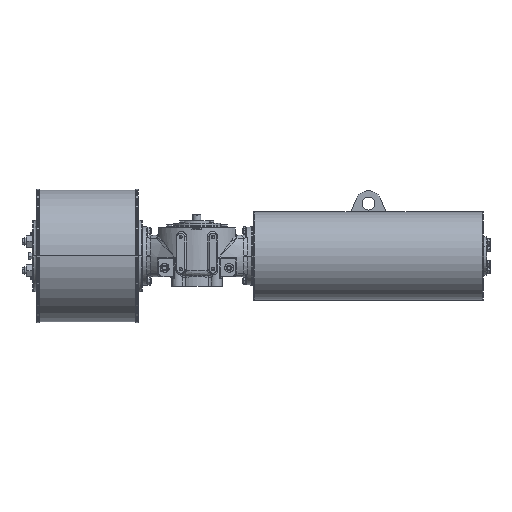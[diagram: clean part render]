
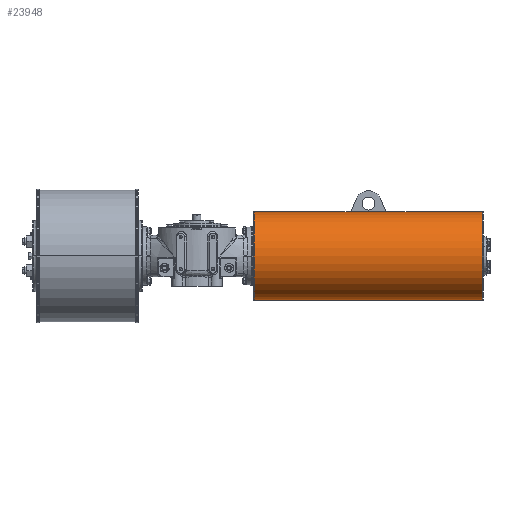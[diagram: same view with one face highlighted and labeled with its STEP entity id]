
A CAD part, front view. The second image highlights one B-rep face of the part: STEP entity #23948.
In plain terms, the highlighted cylindrical face has radius 136.5 mm (diameter 273 mm), a partial arc.
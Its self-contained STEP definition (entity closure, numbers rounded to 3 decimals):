
#76 = CIRCLE ( 'NONE', #54691, 136.5 ) ;
#340 = LINE ( 'NONE', #20296, #33107 ) ;
#471 = CARTESIAN_POINT ( 'NONE',  ( 479.477, 30.296, 138.408 ) ) ;
#1225 = EDGE_CURVE ( 'NONE', #2932, #33065, #37039, .T. ) ;
#1483 = CARTESIAN_POINT ( 'NONE',  ( 179.977, 35.296, -134.5 ) ) ;
#1528 = CARTESIAN_POINT ( 'NONE',  ( 587.477, 35.296, 2. ) ) ;
#2574 = DIRECTION ( 'NONE',  ( 0., 0., 1. ) ) ;
#2932 = VERTEX_POINT ( 'NONE', #1483 ) ;
#3611 = AXIS2_PLACEMENT_3D ( 'NONE', #1528, #22834, #60166 ) ;
#3728 = VECTOR ( 'NONE', #3935, 1000. ) ;
#3935 = DIRECTION ( 'NONE',  ( -1., 0., 0. ) ) ;
#3938 = CARTESIAN_POINT ( 'NONE',  ( 587.477, 35.296, 138.5 ) ) ;
#4037 = CARTESIAN_POINT ( 'NONE',  ( 179.977, 35.296, 138.5 ) ) ;
#4076 = DIRECTION ( 'NONE',  ( 0., 0., 1. ) ) ;
#4777 = DIRECTION ( 'NONE',  ( 1., 0., 0. ) ) ;
#5074 = AXIS2_PLACEMENT_3D ( 'NONE', #51878, #4777, #4076 ) ;
#5109 = DIRECTION ( 'NONE',  ( 0., 1., 0. ) ) ;
#5519 = EDGE_CURVE ( 'NONE', #33065, #66365, #67754, .T. ) ;
#6393 = ORIENTED_EDGE ( 'NONE', *, *, #1225, .T. ) ;
#6500 = EDGE_CURVE ( 'NONE', #33241, #55853, #10392, .T. ) ;
#6675 = ORIENTED_EDGE ( 'NONE', *, *, #46491, .T. ) ;
#6799 = DIRECTION ( 'NONE',  ( 1., 0., 0. ) ) ;
#10392 = LINE ( 'NONE', #57147, #58934 ) ;
#11630 = CARTESIAN_POINT ( 'NONE',  ( 886.977, 35.296, 138.5 ) ) ;
#12614 = DIRECTION ( 'NONE',  ( 0., 0., 1. ) ) ;
#14374 = EDGE_LOOP ( 'NONE', ( #37369, #6675, #6393, #31301, #54536, #43977, #27229, #16465, #66931 ) ) ;
#14561 = CARTESIAN_POINT ( 'NONE',  ( 479.477, 35.296, 2. ) ) ;
#14764 = CARTESIAN_POINT ( 'NONE',  ( 183.477, 30.296, 138.408 ) ) ;
#15961 = DIRECTION ( 'NONE',  ( -1., 0., 0. ) ) ;
#16465 = ORIENTED_EDGE ( 'NONE', *, *, #23939, .T. ) ;
#18406 = VERTEX_POINT ( 'NONE', #471 ) ;
#18919 = CIRCLE ( 'NONE', #60161, 136.5 ) ;
#19957 = VECTOR ( 'NONE', #52777, 1000. ) ;
#20296 = CARTESIAN_POINT ( 'NONE',  ( 183.477, 35.296, 138.5 ) ) ;
#22834 = DIRECTION ( 'NONE',  ( 1., 0., 0. ) ) ;
#23939 = EDGE_CURVE ( 'NONE', #18406, #55853, #29608, .T. ) ;
#23948 = ADVANCED_FACE ( 'NONE', ( #42068 ), #41739, .T. ) ;
#25268 = CARTESIAN_POINT ( 'NONE',  ( 587.477, 30.296, 138.408 ) ) ;
#27229 = ORIENTED_EDGE ( 'NONE', *, *, #63902, .T. ) ;
#27613 = EDGE_CURVE ( 'NONE', #39132, #66365, #340, .T. ) ;
#28633 = CARTESIAN_POINT ( 'NONE',  ( 179.977, -101.204, 2. ) ) ;
#29608 = CIRCLE ( 'NONE', #65260, 136.5 ) ;
#30629 = EDGE_CURVE ( 'NONE', #33241, #48259, #18919, .T. ) ;
#31301 = ORIENTED_EDGE ( 'NONE', *, *, #5519, .T. ) ;
#31683 = DIRECTION ( 'NONE',  ( 1., 0., 0. ) ) ;
#33065 = VERTEX_POINT ( 'NONE', #40492 ) ;
#33107 = VECTOR ( 'NONE', #57600, 1000. ) ;
#33241 = VERTEX_POINT ( 'NONE', #4037 ) ;
#37039 = LINE ( 'NONE', #52054, #19957 ) ;
#37072 = CARTESIAN_POINT ( 'NONE',  ( 179.977, 35.296, 2. ) ) ;
#37369 = ORIENTED_EDGE ( 'NONE', *, *, #30629, .T. ) ;
#38099 = DIRECTION ( 'NONE',  ( 1., 0., 0. ) ) ;
#38404 = DIRECTION ( 'NONE',  ( -1., 0., 0. ) ) ;
#39039 = EDGE_CURVE ( 'NONE', #39132, #59870, #42610, .T. ) ;
#39132 = VERTEX_POINT ( 'NONE', #3938 ) ;
#40492 = CARTESIAN_POINT ( 'NONE',  ( 886.977, 35.296, -134.5 ) ) ;
#41739 = CYLINDRICAL_SURFACE ( 'NONE', #5074, 136.5 ) ;
#42068 = FACE_OUTER_BOUND ( 'NONE', #14374, .T. ) ;
#42610 = CIRCLE ( 'NONE', #3611, 136.5 ) ;
#43977 = ORIENTED_EDGE ( 'NONE', *, *, #39039, .T. ) ;
#46491 = EDGE_CURVE ( 'NONE', #48259, #2932, #76, .T. ) ;
#46576 = AXIS2_PLACEMENT_3D ( 'NONE', #49914, #38404, #12614 ) ;
#48259 = VERTEX_POINT ( 'NONE', #28633 ) ;
#49914 = CARTESIAN_POINT ( 'NONE',  ( 886.977, 35.296, 2. ) ) ;
#51878 = CARTESIAN_POINT ( 'NONE',  ( 183.477, 35.296, 2. ) ) ;
#52054 = CARTESIAN_POINT ( 'NONE',  ( 183.477, 35.296, -134.5 ) ) ;
#52777 = DIRECTION ( 'NONE',  ( 1., 0., 0. ) ) ;
#53763 = CARTESIAN_POINT ( 'NONE',  ( 479.477, 35.296, 138.5 ) ) ;
#54536 = ORIENTED_EDGE ( 'NONE', *, *, #27613, .F. ) ;
#54691 = AXIS2_PLACEMENT_3D ( 'NONE', #60176, #6799, #2574 ) ;
#55853 = VERTEX_POINT ( 'NONE', #53763 ) ;
#57147 = CARTESIAN_POINT ( 'NONE',  ( 183.477, 35.296, 138.5 ) ) ;
#57600 = DIRECTION ( 'NONE',  ( 1., 0., 0. ) ) ;
#58934 = VECTOR ( 'NONE', #31683, 1000. ) ;
#59397 = DIRECTION ( 'NONE',  ( 0., 0., 1. ) ) ;
#59870 = VERTEX_POINT ( 'NONE', #25268 ) ;
#60161 = AXIS2_PLACEMENT_3D ( 'NONE', #37072, #38099, #59397 ) ;
#60166 = DIRECTION ( 'NONE',  ( 0., -1., 0. ) ) ;
#60176 = CARTESIAN_POINT ( 'NONE',  ( 179.977, 35.296, 2. ) ) ;
#62559 = LINE ( 'NONE', #14764, #3728 ) ;
#63902 = EDGE_CURVE ( 'NONE', #59870, #18406, #62559, .T. ) ;
#65260 = AXIS2_PLACEMENT_3D ( 'NONE', #14561, #15961, #5109 ) ;
#66365 = VERTEX_POINT ( 'NONE', #11630 ) ;
#66931 = ORIENTED_EDGE ( 'NONE', *, *, #6500, .F. ) ;
#67754 = CIRCLE ( 'NONE', #46576, 136.5 ) ;
